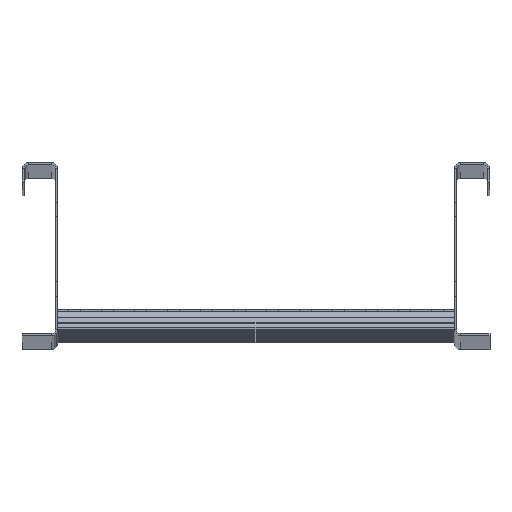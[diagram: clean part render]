
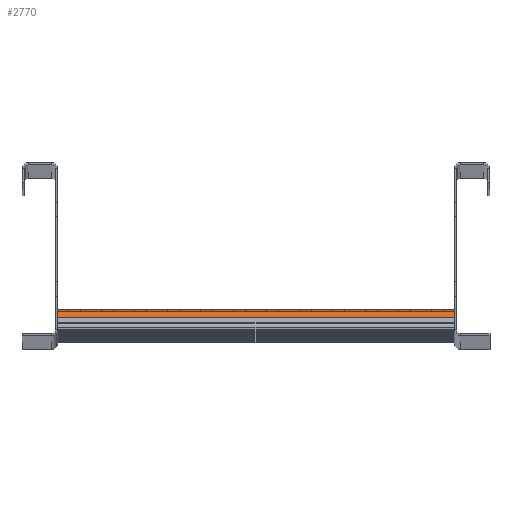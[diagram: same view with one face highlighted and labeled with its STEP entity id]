
A CAD part, top view. The second image highlights one B-rep face of the part: STEP entity #2770.
In plain terms, the highlighted cylindrical face has radius 8.1 mm (diameter 16.2 mm), a partial arc.
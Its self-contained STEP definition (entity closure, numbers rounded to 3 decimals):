
#1290 = LINE ( 'NONE', #2516, #7332 ) ;
#2516 = CARTESIAN_POINT ( 'NONE',  ( -150., 15., 7.7 ) ) ;
#2606 = DIRECTION ( 'NONE',  ( 0., 0., -1. ) ) ;
#2770 = ADVANCED_FACE ( 'NONE', ( #6829 ), #9456, .T. ) ;
#2841 = AXIS2_PLACEMENT_3D ( 'NONE', #6732, #9832, #2606 ) ;
#3172 = CIRCLE ( 'NONE', #7660, 8.1 ) ;
#3309 = EDGE_CURVE ( 'NONE', #7712, #4569, #4909, .T. ) ;
#3600 = CARTESIAN_POINT ( 'NONE',  ( -150., 9.268, 15.446 ) ) ;
#3767 = CARTESIAN_POINT ( 'NONE',  ( -150., 15., 7.7 ) ) ;
#3843 = EDGE_CURVE ( 'NONE', #5867, #14515, #1290, .T. ) ;
#4116 = ORIENTED_EDGE ( 'NONE', *, *, #3309, .F. ) ;
#4316 = CARTESIAN_POINT ( 'NONE',  ( 150., 6.9, 7.7 ) ) ;
#4569 = VERTEX_POINT ( 'NONE', #13333 ) ;
#4909 = LINE ( 'NONE', #3600, #14520 ) ;
#5867 = VERTEX_POINT ( 'NONE', #10666 ) ;
#5956 = CARTESIAN_POINT ( 'NONE',  ( 150., 9.268, 15.446 ) ) ;
#6291 = CARTESIAN_POINT ( 'NONE',  ( -150., 6.9, 7.7 ) ) ;
#6574 = DIRECTION ( 'NONE',  ( 1., 0., 0. ) ) ;
#6732 = CARTESIAN_POINT ( 'NONE',  ( -300.148, 6.9, 7.7 ) ) ;
#6829 = FACE_OUTER_BOUND ( 'NONE', #8694, .T. ) ;
#7215 = DIRECTION ( 'NONE',  ( -1., 0., 0. ) ) ;
#7332 = VECTOR ( 'NONE', #12734, 1000. ) ;
#7660 = AXIS2_PLACEMENT_3D ( 'NONE', #6291, #6574, #13594 ) ;
#7712 = VERTEX_POINT ( 'NONE', #5956 ) ;
#8694 = EDGE_LOOP ( 'NONE', ( #9368, #12661, #4116, #9936 ) ) ;
#8847 = AXIS2_PLACEMENT_3D ( 'NONE', #4316, #7215, #12853 ) ;
#8891 = CIRCLE ( 'NONE', #8847, 8.1 ) ;
#8950 = DIRECTION ( 'NONE',  ( -1., 0., 0. ) ) ;
#9368 = ORIENTED_EDGE ( 'NONE', *, *, #3843, .T. ) ;
#9456 = CYLINDRICAL_SURFACE ( 'NONE', #2841, 8.1 ) ;
#9832 = DIRECTION ( 'NONE',  ( 1., 0., 0. ) ) ;
#9936 = ORIENTED_EDGE ( 'NONE', *, *, #10668, .T. ) ;
#10666 = CARTESIAN_POINT ( 'NONE',  ( 150., 15., 7.7 ) ) ;
#10668 = EDGE_CURVE ( 'NONE', #7712, #5867, #8891, .T. ) ;
#11940 = EDGE_CURVE ( 'NONE', #14515, #4569, #3172, .T. ) ;
#12661 = ORIENTED_EDGE ( 'NONE', *, *, #11940, .T. ) ;
#12734 = DIRECTION ( 'NONE',  ( -1., 0., 0. ) ) ;
#12853 = DIRECTION ( 'NONE',  ( 0., 0., 1. ) ) ;
#13333 = CARTESIAN_POINT ( 'NONE',  ( -150., 9.268, 15.446 ) ) ;
#13594 = DIRECTION ( 'NONE',  ( 0., 0., -1. ) ) ;
#14515 = VERTEX_POINT ( 'NONE', #3767 ) ;
#14520 = VECTOR ( 'NONE', #8950, 1000. ) ;
